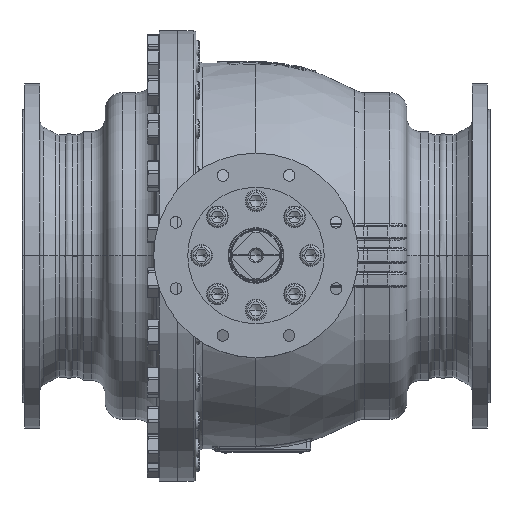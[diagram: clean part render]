
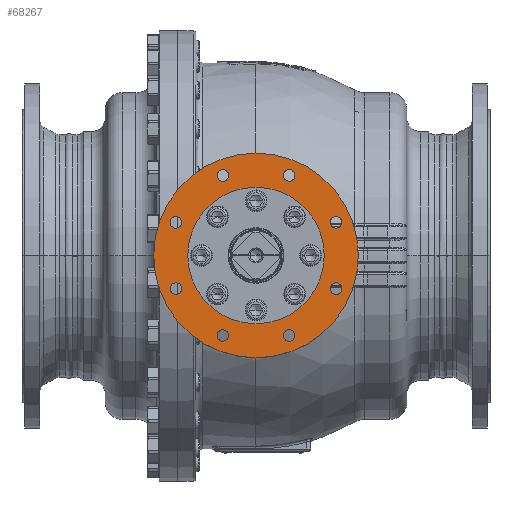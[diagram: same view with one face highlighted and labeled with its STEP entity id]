
A CAD part, top view. The second image highlights one B-rep face of the part: STEP entity #68267.
In plain terms, the highlighted planar face has unit normal (0, 0, 1).
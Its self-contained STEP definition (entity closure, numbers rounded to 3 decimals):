
#2626=CARTESIAN_POINT('',(0.,0.,440.));
#2627=DIRECTION('',(0.,0.,1.));
#2628=DIRECTION('',(1.,0.,0.));
#2629=AXIS2_PLACEMENT_3D('',#2626,#2627,#2628);
#2631=CARTESIAN_POINT('',(0.,0.,440.));
#2632=DIRECTION('',(0.,0.,-1.));
#2633=DIRECTION('',(1.,0.,0.));
#2634=AXIS2_PLACEMENT_3D('',#2631,#2632,#2633);
#2636=CARTESIAN_POINT('',(-117.333,48.601,440.));
#2637=DIRECTION('',(0.,0.,-1.));
#2638=DIRECTION('',(-1.,0.,0.));
#2639=AXIS2_PLACEMENT_3D('',#2636,#2637,#2638);
#2641=CARTESIAN_POINT('',(-117.333,48.601,440.));
#2642=DIRECTION('',(0.,0.,-1.));
#2643=DIRECTION('',(1.,0.,0.));
#2644=AXIS2_PLACEMENT_3D('',#2641,#2642,#2643);
#2646=CARTESIAN_POINT('',(-48.601,117.333,440.));
#2647=DIRECTION('',(0.,0.,-1.));
#2648=DIRECTION('',(-0.707,0.707,0.));
#2649=AXIS2_PLACEMENT_3D('',#2646,#2647,#2648);
#2651=CARTESIAN_POINT('',(-48.601,117.333,440.));
#2652=DIRECTION('',(0.,0.,-1.));
#2653=DIRECTION('',(0.707,-0.707,0.));
#2654=AXIS2_PLACEMENT_3D('',#2651,#2652,#2653);
#2656=CARTESIAN_POINT('',(48.601,117.333,440.));
#2657=DIRECTION('',(0.,0.,-1.));
#2658=DIRECTION('',(0.,1.,0.));
#2659=AXIS2_PLACEMENT_3D('',#2656,#2657,#2658);
#2661=CARTESIAN_POINT('',(48.601,117.333,440.));
#2662=DIRECTION('',(0.,0.,-1.));
#2663=DIRECTION('',(0.,-1.,0.));
#2664=AXIS2_PLACEMENT_3D('',#2661,#2662,#2663);
#2666=CARTESIAN_POINT('',(117.333,48.601,440.));
#2667=DIRECTION('',(0.,0.,-1.));
#2668=DIRECTION('',(0.707,0.707,0.));
#2669=AXIS2_PLACEMENT_3D('',#2666,#2667,#2668);
#2671=CARTESIAN_POINT('',(117.333,48.601,440.));
#2672=DIRECTION('',(0.,0.,-1.));
#2673=DIRECTION('',(-0.707,-0.707,0.));
#2674=AXIS2_PLACEMENT_3D('',#2671,#2672,#2673);
#2676=CARTESIAN_POINT('',(117.333,-48.601,440.));
#2677=DIRECTION('',(0.,0.,-1.));
#2678=DIRECTION('',(1.,0.,0.));
#2679=AXIS2_PLACEMENT_3D('',#2676,#2677,#2678);
#2681=CARTESIAN_POINT('',(117.333,-48.601,440.));
#2682=DIRECTION('',(0.,0.,-1.));
#2683=DIRECTION('',(-1.,0.,0.));
#2684=AXIS2_PLACEMENT_3D('',#2681,#2682,#2683);
#2686=CARTESIAN_POINT('',(48.601,-117.333,440.));
#2687=DIRECTION('',(0.,0.,-1.));
#2688=DIRECTION('',(0.707,-0.707,0.));
#2689=AXIS2_PLACEMENT_3D('',#2686,#2687,#2688);
#2691=CARTESIAN_POINT('',(48.601,-117.333,440.));
#2692=DIRECTION('',(0.,0.,-1.));
#2693=DIRECTION('',(-0.707,0.707,0.));
#2694=AXIS2_PLACEMENT_3D('',#2691,#2692,#2693);
#2696=CARTESIAN_POINT('',(-48.601,-117.333,440.));
#2697=DIRECTION('',(0.,0.,-1.));
#2698=DIRECTION('',(0.,-1.,0.));
#2699=AXIS2_PLACEMENT_3D('',#2696,#2697,#2698);
#2701=CARTESIAN_POINT('',(-48.601,-117.333,440.));
#2702=DIRECTION('',(0.,0.,-1.));
#2703=DIRECTION('',(0.,1.,0.));
#2704=AXIS2_PLACEMENT_3D('',#2701,#2702,#2703);
#2706=CARTESIAN_POINT('',(-117.333,-48.601,440.));
#2707=DIRECTION('',(0.,0.,-1.));
#2708=DIRECTION('',(-0.707,-0.707,0.));
#2709=AXIS2_PLACEMENT_3D('',#2706,#2707,#2708);
#2711=CARTESIAN_POINT('',(-117.333,-48.601,440.));
#2712=DIRECTION('',(0.,0.,-1.));
#2713=DIRECTION('',(0.707,0.707,0.));
#2714=AXIS2_PLACEMENT_3D('',#2711,#2712,#2713);
#2720=CARTESIAN_POINT('',(0.,0.,440.));
#2721=DIRECTION('',(0.,0.,-1.));
#2722=DIRECTION('',(1.,0.,0.));
#2723=AXIS2_PLACEMENT_3D('',#2720,#2721,#2722);
#2729=CARTESIAN_POINT('',(0.,0.,440.));
#2730=DIRECTION('',(0.,0.,1.));
#2731=DIRECTION('',(1.,0.,0.));
#2732=AXIS2_PLACEMENT_3D('',#2729,#2730,#2731);
#64919=CARTESIAN_POINT('',(100.,0.,440.));
#64921=VERTEX_POINT('',#64919);
#64923=CARTESIAN_POINT('',(-100.,0.,440.));
#64925=VERTEX_POINT('',#64923);
#64995=CARTESIAN_POINT('',(-125.833,48.601,440.));
#64996=CARTESIAN_POINT('',(-108.833,48.601,440.));
#64997=VERTEX_POINT('',#64995);
#64998=VERTEX_POINT('',#64996);
#65001=CARTESIAN_POINT('',(-54.611,123.343,440.));
#65002=CARTESIAN_POINT('',(-42.59,111.322,440.));
#65003=VERTEX_POINT('',#65001);
#65004=VERTEX_POINT('',#65002);
#65007=CARTESIAN_POINT('',(48.601,125.833,440.));
#65008=CARTESIAN_POINT('',(48.601,108.833,440.));
#65009=VERTEX_POINT('',#65007);
#65010=VERTEX_POINT('',#65008);
#65013=CARTESIAN_POINT('',(123.343,54.611,440.));
#65014=CARTESIAN_POINT('',(111.322,42.59,440.));
#65015=VERTEX_POINT('',#65013);
#65016=VERTEX_POINT('',#65014);
#65028=CARTESIAN_POINT('',(150.,0.,440.));
#65030=VERTEX_POINT('',#65028);
#65032=CARTESIAN_POINT('',(-150.,0.,440.));
#65034=VERTEX_POINT('',#65032);
#65043=CARTESIAN_POINT('',(125.833,-48.601,440.));
#65044=CARTESIAN_POINT('',(108.833,-48.601,440.));
#65045=VERTEX_POINT('',#65043);
#65046=VERTEX_POINT('',#65044);
#65051=CARTESIAN_POINT('',(54.611,-123.343,440.));
#65052=CARTESIAN_POINT('',(42.59,-111.322,440.));
#65053=VERTEX_POINT('',#65051);
#65054=VERTEX_POINT('',#65052);
#65059=CARTESIAN_POINT('',(-48.601,-125.833,440.));
#65060=CARTESIAN_POINT('',(-48.601,-108.833,440.));
#65061=VERTEX_POINT('',#65059);
#65062=VERTEX_POINT('',#65060);
#65067=CARTESIAN_POINT('',(-123.343,-54.611,440.));
#65068=CARTESIAN_POINT('',(-111.322,-42.59,440.));
#65069=VERTEX_POINT('',#65067);
#65070=VERTEX_POINT('',#65068);
#68204=CARTESIAN_POINT('',(0.,0.,440.));
#68205=DIRECTION('',(0.,0.,1.));
#68206=DIRECTION('',(1.,0.,0.));
#68207=AXIS2_PLACEMENT_3D('',#68204,#68205,#68206);
#68208=PLANE('',#68207);
#68209=ORIENTED_EDGE('',*,*,#68197,.F.);
#68210=ORIENTED_EDGE('',*,*,#68186,.T.);
#68211=EDGE_LOOP('',(#68209,#68210));
#68212=FACE_OUTER_BOUND('',#68211,.F.);
#68214=ORIENTED_EDGE('',*,*,#68213,.F.);
#68216=ORIENTED_EDGE('',*,*,#68215,.T.);
#68217=EDGE_LOOP('',(#68214,#68216));
#68218=FACE_BOUND('',#68217,.F.);
#68220=ORIENTED_EDGE('',*,*,#68219,.F.);
#68222=ORIENTED_EDGE('',*,*,#68221,.F.);
#68223=EDGE_LOOP('',(#68220,#68222));
#68224=FACE_BOUND('',#68223,.F.);
#68226=ORIENTED_EDGE('',*,*,#68225,.F.);
#68228=ORIENTED_EDGE('',*,*,#68227,.F.);
#68229=EDGE_LOOP('',(#68226,#68228));
#68230=FACE_BOUND('',#68229,.F.);
#68232=ORIENTED_EDGE('',*,*,#68231,.F.);
#68234=ORIENTED_EDGE('',*,*,#68233,.F.);
#68235=EDGE_LOOP('',(#68232,#68234));
#68236=FACE_BOUND('',#68235,.F.);
#68238=ORIENTED_EDGE('',*,*,#68237,.F.);
#68240=ORIENTED_EDGE('',*,*,#68239,.F.);
#68241=EDGE_LOOP('',(#68238,#68240));
#68242=FACE_BOUND('',#68241,.F.);
#68244=ORIENTED_EDGE('',*,*,#68243,.F.);
#68246=ORIENTED_EDGE('',*,*,#68245,.F.);
#68247=EDGE_LOOP('',(#68244,#68246));
#68248=FACE_BOUND('',#68247,.F.);
#68250=ORIENTED_EDGE('',*,*,#68249,.F.);
#68252=ORIENTED_EDGE('',*,*,#68251,.F.);
#68253=EDGE_LOOP('',(#68250,#68252));
#68254=FACE_BOUND('',#68253,.F.);
#68256=ORIENTED_EDGE('',*,*,#68255,.F.);
#68258=ORIENTED_EDGE('',*,*,#68257,.F.);
#68259=EDGE_LOOP('',(#68256,#68258));
#68260=FACE_BOUND('',#68259,.F.);
#68262=ORIENTED_EDGE('',*,*,#68261,.F.);
#68264=ORIENTED_EDGE('',*,*,#68263,.F.);
#68265=EDGE_LOOP('',(#68262,#68264));
#68266=FACE_BOUND('',#68265,.F.);
#68267=ADVANCED_FACE('',(#68212,#68218,#68224,#68230,#68236,#68242,#68248,
#68254,#68260,#68266),#68208,.T.);
#2630=CIRCLE('',#2629,150.);
#2635=CIRCLE('',#2634,150.);
#2640=CIRCLE('',#2639,8.5);
#2645=CIRCLE('',#2644,8.5);
#2650=CIRCLE('',#2649,8.5);
#2655=CIRCLE('',#2654,8.5);
#2660=CIRCLE('',#2659,8.5);
#2665=CIRCLE('',#2664,8.5);
#2670=CIRCLE('',#2669,8.5);
#2675=CIRCLE('',#2674,8.5);
#2680=CIRCLE('',#2679,8.5);
#2685=CIRCLE('',#2684,8.5);
#2690=CIRCLE('',#2689,8.5);
#2695=CIRCLE('',#2694,8.5);
#2700=CIRCLE('',#2699,8.5);
#2705=CIRCLE('',#2704,8.5);
#2710=CIRCLE('',#2709,8.5);
#2715=CIRCLE('',#2714,8.5);
#2724=CIRCLE('',#2723,100.);
#2733=CIRCLE('',#2732,100.);
#68186=EDGE_CURVE('',#65030,#65034,#2635,.T.);
#68197=EDGE_CURVE('',#65030,#65034,#2630,.T.);
#68213=EDGE_CURVE('',#64921,#64925,#2724,.T.);
#68215=EDGE_CURVE('',#64921,#64925,#2733,.T.);
#68219=EDGE_CURVE('',#64997,#64998,#2640,.T.);
#68221=EDGE_CURVE('',#64998,#64997,#2645,.T.);
#68225=EDGE_CURVE('',#65003,#65004,#2650,.T.);
#68227=EDGE_CURVE('',#65004,#65003,#2655,.T.);
#68231=EDGE_CURVE('',#65009,#65010,#2660,.T.);
#68233=EDGE_CURVE('',#65010,#65009,#2665,.T.);
#68237=EDGE_CURVE('',#65015,#65016,#2670,.T.);
#68239=EDGE_CURVE('',#65016,#65015,#2675,.T.);
#68243=EDGE_CURVE('',#65045,#65046,#2680,.T.);
#68245=EDGE_CURVE('',#65046,#65045,#2685,.T.);
#68249=EDGE_CURVE('',#65053,#65054,#2690,.T.);
#68251=EDGE_CURVE('',#65054,#65053,#2695,.T.);
#68255=EDGE_CURVE('',#65061,#65062,#2700,.T.);
#68257=EDGE_CURVE('',#65062,#65061,#2705,.T.);
#68261=EDGE_CURVE('',#65069,#65070,#2710,.T.);
#68263=EDGE_CURVE('',#65070,#65069,#2715,.T.);
